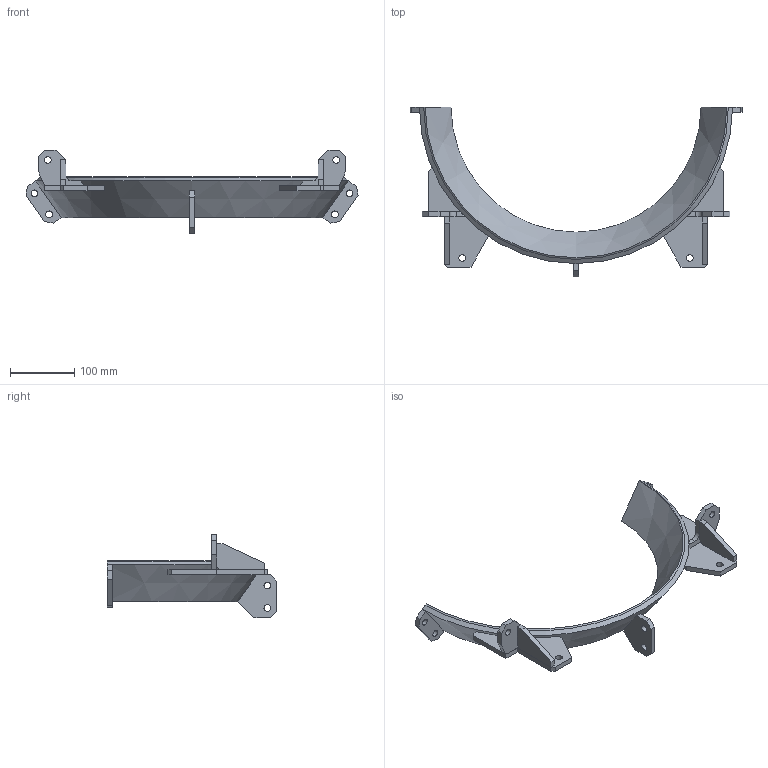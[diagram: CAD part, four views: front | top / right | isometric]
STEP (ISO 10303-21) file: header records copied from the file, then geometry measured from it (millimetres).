
FILE_DESCRIPTION(/* description */ ('BERCEAU AVANT','CAx-IF Rec.Pracs.---Representation and Presentation of Product Manufacturing Information (PMI)---4.0---2014-10-13'),/* implementation_level */ '2;1');
FILE_NAME(/* name */ 'vv180211-A.stp',/* time_stamp */ '2025-10-14T13:17:13+02:00',/* author */ ('EFR'),/* organization */ (''),/* preprocessor_version */ 'ST-DEVELOPER v20',/* originating_system */ 'Autodesk Inventor 2025',/* authorisation */ '');
FILE_SCHEMA (('AP242_MANAGED_MODEL_BASED_3D_ENGINEERING_MIM_LF { 1 0 10303 442 1 1 4 }'));
Length unit declared in the file: millimetre
Products named in the file (1): VICTOR.V.18.02.11
Bounding box: 517.89 x 265 x 130 mm (x, y, z)
Volume: 758280.8 mm3; surface area: 286824.3 mm2
Topology: 11 solids, 11 shells, 111 faces, 267 edges, 178 vertices
Faces by surface type: plane 87, cone 12, cylinder 12
Full cylindrical faces by diameter (mm): 10.5 x10
Entity records: 6402 total; most frequent: CARTESIAN_POINT 1935, STYLED_ITEM 729, DIRECTION 659, ORIENTED_EDGE 534, POLYLINE 520, EDGE_CURVE 267, AXIS2_PLACEMENT_3D 220, LINE 219
